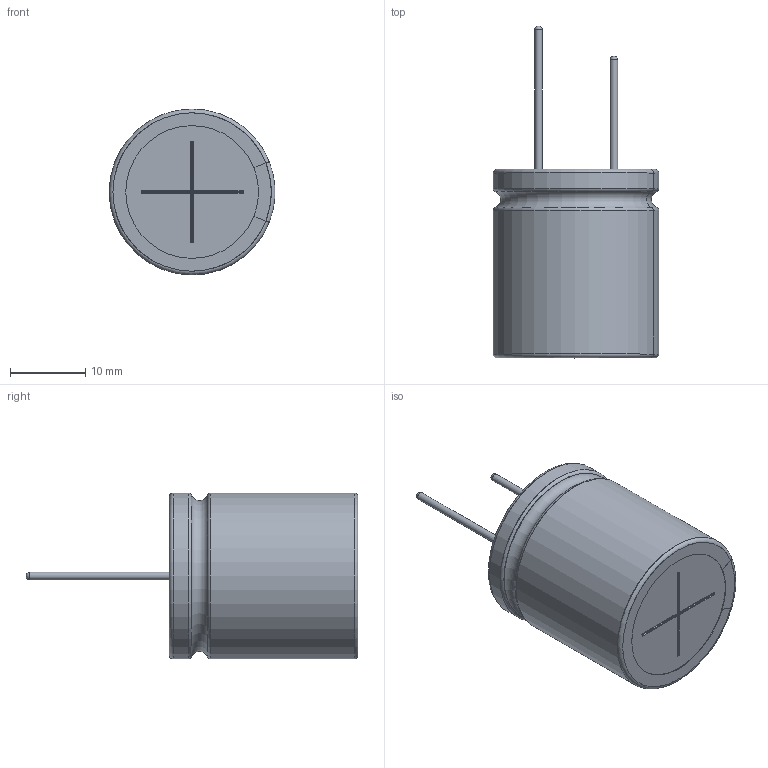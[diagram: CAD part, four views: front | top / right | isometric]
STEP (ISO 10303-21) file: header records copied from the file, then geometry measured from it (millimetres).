
FILE_DESCRIPTION(/* description */ (''),/* implementation_level */ '2;1');
FILE_NAME(/* name */ '22x25_Lead.stp',/* time_stamp */ '2017-09-06T16:08:47+09:00',/* author */ (''),/* organization */ (''),/* preprocessor_version */ 'ST-DEVELOPER v16',/* originating_system */ 'SIEMENS PLM Software NX 11.0',/* authorisation */ '');
FILE_SCHEMA (('AUTOMOTIVE_DESIGN { 1 0 10303 214 3 1 1 1 }'));
Length unit declared in the file: millimetre
Products named in the file (1): 22x25_Lead_0
Bounding box: 21.97 x 44 x 22 mm (x, y, z)
Volume: 9380.2 mm3; surface area: 6591.1 mm2
Topology: 3 solids, 3 shells, 100 faces, 252 edges, 160 vertices
Faces by surface type: cylinder 36, plane 28, torus 26, sphere 6, bspline 4
Full cylindrical faces by diameter (mm): 1 x2, 21.8 x2
Entity records: 3386 total; most frequent: CARTESIAN_POINT 605, DIRECTION 566, ORIENTED_EDGE 468, AXIS2_PLACEMENT_3D 235, EDGE_CURVE 234, VERTEX_POINT 154, CIRCLE 130, EDGE_LOOP 114
